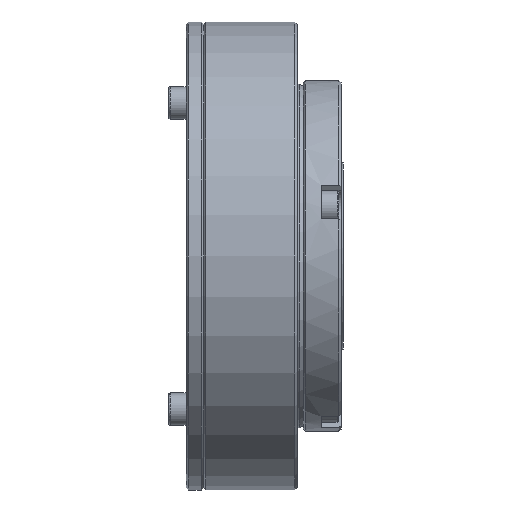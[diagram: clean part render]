
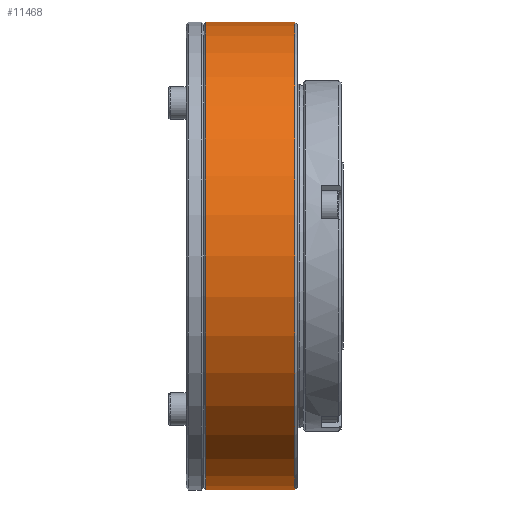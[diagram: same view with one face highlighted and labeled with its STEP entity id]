
A CAD part, front view. The second image highlights one B-rep face of the part: STEP entity #11468.
In plain terms, the highlighted cylindrical face has radius 40 mm (diameter 80 mm), a full revolution.
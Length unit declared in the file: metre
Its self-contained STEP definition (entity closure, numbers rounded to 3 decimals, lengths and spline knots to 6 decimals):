
#456 = CARTESIAN_POINT ( 'NONE',  ( 0.0186, 0.02, 0.034641 ) ) ;
#1239 = EDGE_CURVE ( 'NONE', #16942, #16942, #6193, .T. ) ;
#3944 = DIRECTION ( 'NONE',  ( 0., 0.5, 0.866 ) ) ;
#4156 = DIRECTION ( 'NONE',  ( -1., 0., 0. ) ) ;
#4302 = FACE_OUTER_BOUND ( 'NONE', #9834, .T. ) ;
#6193 = CIRCLE ( 'NONE', #18478, 0.04 ) ;
#6400 = CARTESIAN_POINT ( 'NONE',  ( 0.003, 0., 0. ) ) ;
#6477 = ORIENTED_EDGE ( 'NONE', *, *, #9175, .T. ) ;
#6696 = DIRECTION ( 'NONE',  ( 1., 0., 0. ) ) ;
#7944 = FACE_OUTER_BOUND ( 'NONE', #19927, .T. ) ;
#9175 = EDGE_CURVE ( 'NONE', #21702, #21702, #16106, .T. ) ;
#9440 = AXIS2_PLACEMENT_3D ( 'NONE', #13620, #6696, #20498 ) ;
#9834 = EDGE_LOOP ( 'NONE', ( #6477 ) ) ;
#11468 = ADVANCED_FACE ( 'NONE', ( #7944, #4302 ), #14746, .T. ) ;
#13062 = CARTESIAN_POINT ( 'NONE',  ( 0.0034, 0.02, 0.034641 ) ) ;
#13114 = DIRECTION ( 'NONE',  ( -1., 0., 0. ) ) ;
#13444 = ORIENTED_EDGE ( 'NONE', *, *, #1239, .T. ) ;
#13620 = CARTESIAN_POINT ( 'NONE',  ( 0.0034, 0., 0. ) ) ;
#13727 = AXIS2_PLACEMENT_3D ( 'NONE', #6400, #13114, #17810 ) ;
#14746 = CYLINDRICAL_SURFACE ( 'NONE', #13727, 0.04 ) ;
#15807 = CARTESIAN_POINT ( 'NONE',  ( 0.0186, 0., 0. ) ) ;
#16106 = CIRCLE ( 'NONE', #9440, 0.04 ) ;
#16942 = VERTEX_POINT ( 'NONE', #456 ) ;
#17810 = DIRECTION ( 'NONE',  ( 0., 0.5, 0.866 ) ) ;
#18478 = AXIS2_PLACEMENT_3D ( 'NONE', #15807, #4156, #3944 ) ;
#19927 = EDGE_LOOP ( 'NONE', ( #13444 ) ) ;
#20498 = DIRECTION ( 'NONE',  ( 0., 0.5, 0.866 ) ) ;
#21702 = VERTEX_POINT ( 'NONE', #13062 ) ;
